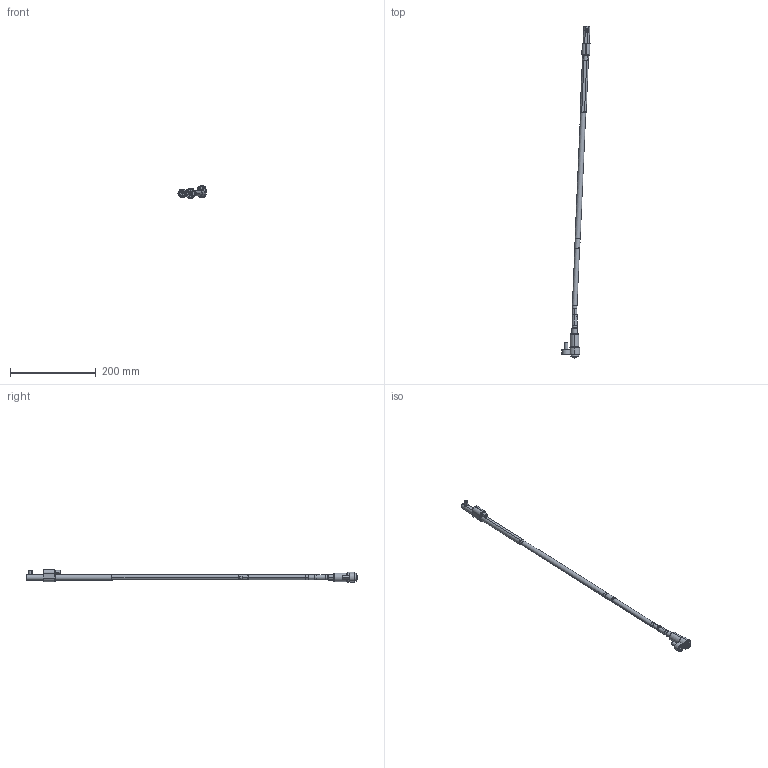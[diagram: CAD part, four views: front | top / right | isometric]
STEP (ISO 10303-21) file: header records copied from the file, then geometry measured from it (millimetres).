
FILE_DESCRIPTION (( 'STEP AP214' ), '1' );
FILE_NAME ('WL120125-EJE 2,5°.STEP', '2021-03-19T15:37:49', ( '' ), ( '' ), 'SwSTEP 2.0', 'SolidWorks 2019', '' );
FILE_SCHEMA (( 'AUTOMOTIVE_DESIGN' ));
Length unit declared in the file: millimetre
Products named in the file (17): Web-WL12-F01; 1DIN912645_DIN 912 M6 x 45 --- 45C; Web-WL12-A1; WL120100-B; WL120125-EJE 2,5°; 3IMAN5X3-150_con sellador; 9DR2808-TOR; WL120100-E; Web-WL12-A2; 8WL12EJEP; WL120100-B1; Web-WL12-A8; Web-WL12-A3; Web-WL12-XX_ON-WL120125-2,5; 1DIN912820_DIN 912 M8 x 20 --- 20C; WL120100-D; Web-WL12-F00.SLDPRT
Assembly tree (16 placements, depth 3):
  WL120125-EJE 2,5°
    Web-WL12-A8
    Web-WL12-XX_ON-WL120125-2,5
    Web-WL12-A3
    Web-WL12-A2
    Web-WL12-A1
    Web-WL12-F00.SLDPRT
      Web-WL12-F01
      1DIN912820_DIN 912 M8 x 20 --- 20C
      1DIN912645_DIN 912 M6 x 45 --- 45C
    WL120100-D
    8WL12EJEP
    WL120100-E
    9DR2808-TOR
    WL120100-B
      WL120100-B1
      3IMAN5X3-150_con sellador
Bounding box: 65.17 x 772.67 x 29.9 mm (x, y, z)
Volume: 116548.4 mm3; surface area: 51030 mm2
Topology: 15 solids, 15 shells, 432 faces, 906 edges, 525 vertices
Faces by surface type: plane 139, cylinder 123, cone 120, torus 50
Entity records: 13661 total; most frequent: DIRECTION 2240, CARTESIAN_POINT 2104, ORIENTED_EDGE 1788, AXIS2_PLACEMENT_3D 929, EDGE_CURVE 894, VERTEX_POINT 525, EDGE_LOOP 477, CIRCLE 476
